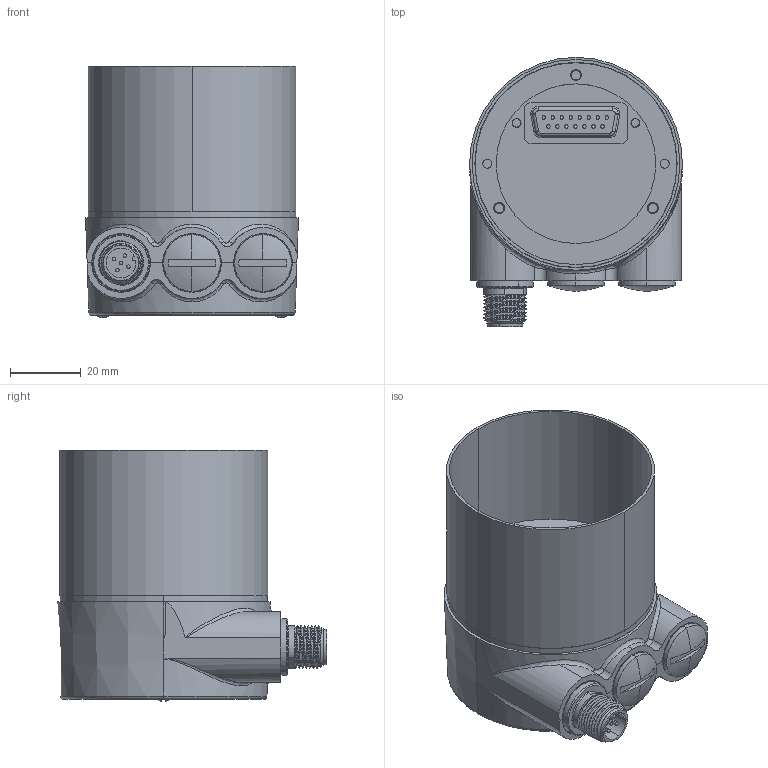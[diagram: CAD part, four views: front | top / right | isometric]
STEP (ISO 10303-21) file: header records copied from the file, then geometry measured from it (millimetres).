
FILE_DESCRIPTION (( 'STEP AP203' ), '1' );
FILE_NAME ('Drawing-OC-5-TC-430-SZM-HCCNNN-Y-H1B-N.STEP', '2013-10-08T11:35:52', ( 'Admin' ), ( 'Microsoft' ), 'SwSTEP 2.0', 'SolidWorks 2006104', '' );
FILE_SCHEMA (( 'CONFIG_CONTROL_DESIGN' ));
Length unit declared in the file: centimetre
Products named in the file (13): Screw M3 X 30 slotted cylinder head V2A_21052030_Standard; O-RING  3 X 1,5  NBR 70_29420060_Standard; Drawing-OC-5-TC-430-SZM-HCCNNN-Y-H1B-N; Connection cap_CanOpen_3xM12_20091203_01-white-N_Standard; Label_Profibus_Standard; CAN-BUS PCB Connection cap  DO2000-B2-ROHS_0246369228_Standard; Screw M3 X 6 torx cylinder head V2A Polylock_38331085_Standard; Connection_cap_46W3253_32460635_05_Machined Part; Cap OCD-ll Fieldbus standard_10021244_46W4018-00_Standard; Housing XC-5-TU-410-SNM-NNN-NNN-N_10016007_46W3602_01-white_Standard; Assembly Male socket M12_5pol.; Blind Plug M12 x 1,5_38022096_Standard; Drawing-OC-5-TC-430-SZM-HCCNNN-Y_Standard
Assembly tree (14 placements, depth 3):
  Drawing-OC-5-TC-430-SZM-HCCNNN-Y-H1B-N
    Connection cap_CanOpen_3xM12_20091203_01-white-N_Standard
      CAN-BUS PCB Connection cap  DO2000-B2-ROHS_0246369228_Standard
      O-RING  3 X 1,5  NBR 70_29420060_Standard  x2
      Connection_cap_46W3253_32460635_05_Machined Part
      Label_Profibus_Standard
      Screw M3 X 30 slotted cylinder head V2A_21052030_Standard  x2
    Assembly Male socket M12_5pol.
    Blind Plug M12 x 1,5_38022096_Standard  x2
    Drawing-OC-5-TC-430-SZM-HCCNNN-Y_Standard
      Cap OCD-ll Fieldbus standard_10021244_46W4018-00_Standard
      Housing XC-5-TU-410-SNM-NNN-NNN-N_10016007_46W3602_01-white_Standard
  Screw M3 X 6 torx cylinder head V2A Polylock_38331085_Standard
Bounding box: 60 x 75.9 x 70.9 mm (x, y, z)
Volume: 45889.1 mm3; surface area: 60439.5 mm2
Topology: 14 solids, 52 shells, 1190 faces, 3963 edges, 2849 vertices
Faces by surface type: plane 551, cylinder 378, torus 92, bspline 91, cone 73, sphere 5
Entity records: 76139 total; most frequent: CARTESIAN_POINT 42731, ORIENTED_EDGE 6347, DIRECTION 6125, EDGE_CURVE 3841, VERTEX_POINT 2778, VECTOR 2081, LINE 2081, AXIS2_PLACEMENT_3D 2022
